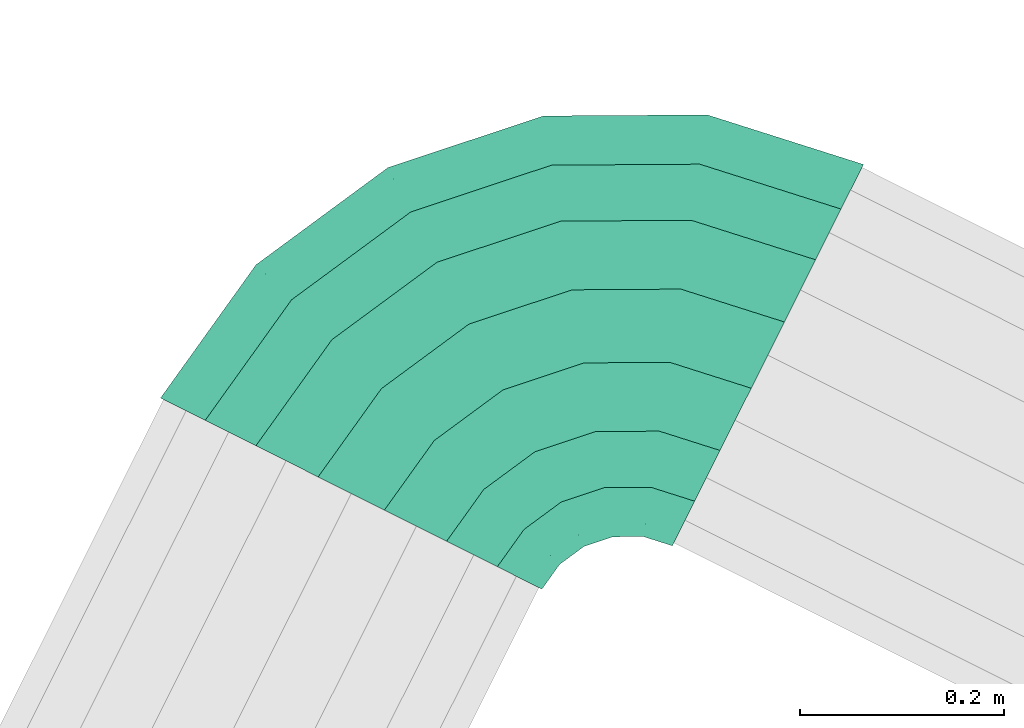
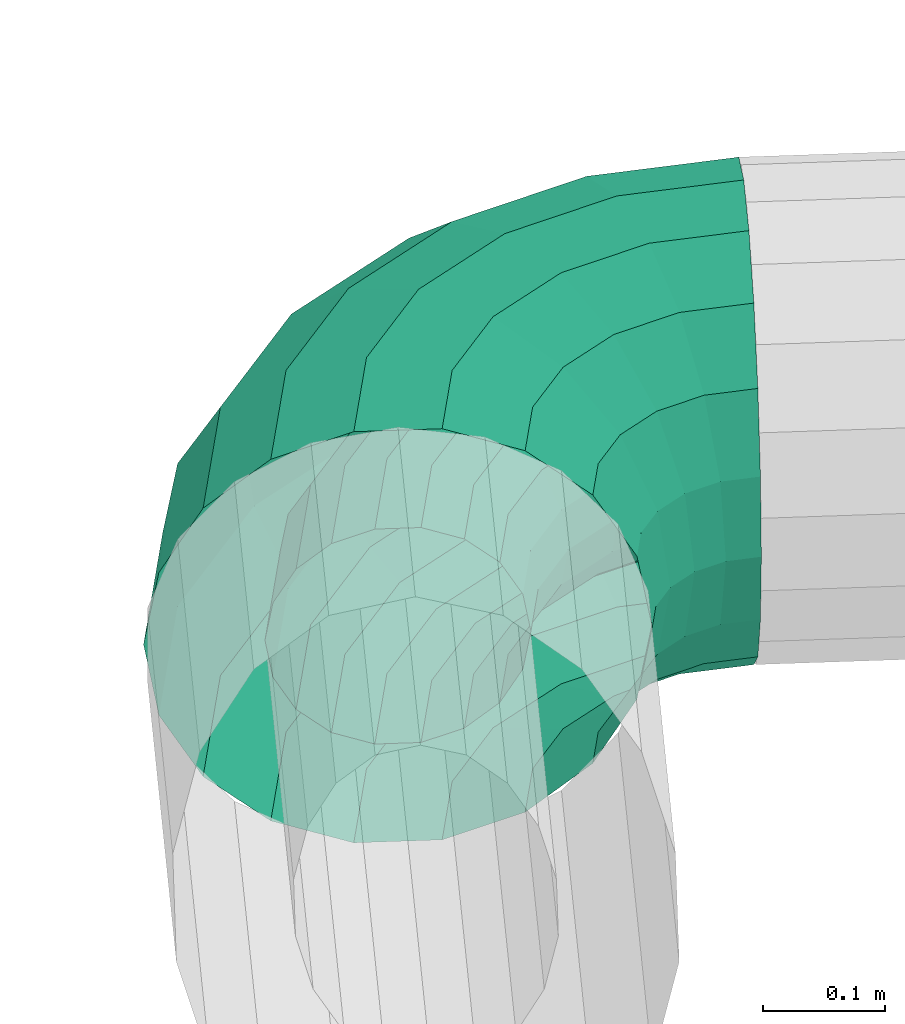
# One storey, part 144 of 152: 1 flow segment.
"""IFC2X3 building model written with IfcOpenShell, lengths in metres."""

from ifc_helpers import new_model, si_unit, derived_unit, direction, frame, origin, place, context, subcontext, project, spatial, face_set, surface_model, source, transform, mapped, material, type_object, type_shapes, element, save


model = new_model("IFC2X3")

# Units and contexts
model_context = context("Model", 3, precision=5.2338327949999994e-05, world=origin(), true_north=direction((0.0, 1.0)))
body_context = subcontext(model_context, "Body", "Model", "MODEL_VIEW")
ifc_project = project(units=[si_unit("LENGTHUNIT", "METRE"), si_unit("AREAUNIT", "SQUARE_METRE"), si_unit("VOLUMEUNIT", "CUBIC_METRE"), si_unit("MASSUNIT", "GRAM", prefix="KILO"), si_unit("PLANEANGLEUNIT", "RADIAN"), derived_unit("THERMALTRANSMITTANCEUNIT", [(si_unit("MASSUNIT", "GRAM", prefix="KILO"), 1), (si_unit("THERMODYNAMICTEMPERATUREUNIT", "KELVIN"), -1), (si_unit("TIMEUNIT", "SECOND"), -3)])], contexts=[model_context])

# Site, building, storey
site_placement = place(None, frame((0.0, 0.0, 0.0), z_axis=(0.0, 0.0, 1.0), x_axis=(0.8939966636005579, -0.4480736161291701, 0.0)))
site = spatial("IfcSite", under=ifc_project, at=site_placement, Name="Default", CompositionType="ELEMENT")
building_placement = place(site_placement, origin())
building = spatial("IfcBuilding", under=site, at=building_placement, CompositionType="ELEMENT")
storey_placement = place(building_placement, frame((0.0, 0.0, 2.7499999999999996)))
storey = spatial("IfcBuildingStorey", under=building, at=storey_placement, Name="1. Obergeschoss", CompositionType="ELEMENT", Elevation=2.7499999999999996)

# Flow segment
ifc_material = material(Name="IfcSurfaceStyle #1741")
distribution_element_type = type_object("IfcDistributionElementType", Name="Rohrbogen 227237:Rohrbogen 227237", material=ifc_material)
shared_shape = source(origin(), body_context, "Body", "SurfaceModel", [
    surface_model("IfcFaceBasedSurfaceModel", [(15.948174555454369, 11.545036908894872, 5.635640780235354), (15.954781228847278, 11.545036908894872, 5.673109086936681), (15.97474739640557, 11.671098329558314, 5.673109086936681), (15.968464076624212, 11.673139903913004, 5.635640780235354), (16.032691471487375, 11.78481998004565, 5.67310908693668), (16.027346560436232, 11.788703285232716, 5.635640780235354), (16.122941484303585, 11.875069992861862, 5.673109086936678), (16.119058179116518, 11.880414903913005, 5.6356407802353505), (16.236663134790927, 11.93301406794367, 5.673109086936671), (16.234621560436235, 11.939297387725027, 5.635640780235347), (16.36272455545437, 11.952980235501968, 5.673109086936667), (16.36272455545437, 11.959586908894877, 5.63564078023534), (15.973804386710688, 11.545036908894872, 5.706058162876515), (15.992839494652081, 11.665219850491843, 5.7060581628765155), (16.04808152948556, 11.773638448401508, 5.706058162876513), (16.134123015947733, 11.859679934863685, 5.70605816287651), (16.2425416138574, 11.914921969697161, 5.7060581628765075), (16.36272455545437, 11.933957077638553, 5.7060581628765), (16.002949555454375, 11.545036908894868, 5.730513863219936), (16.020558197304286, 11.656213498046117, 5.730513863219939), (16.07166046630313, 11.756507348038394, 5.730513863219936), (16.15125411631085, 11.836100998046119, 5.730513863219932), (16.251547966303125, 11.887203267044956, 5.73051386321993), (16.362724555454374, 11.90481190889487, 5.730513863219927), (16.03870139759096, 11.545036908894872, 5.743526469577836), (16.05456021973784, 11.645165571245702, 5.743526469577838), (16.100584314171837, 11.73549294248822, 5.743526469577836), (16.172268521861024, 11.807177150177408, 5.743526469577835), (16.26259589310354, 11.853201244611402, 5.74352646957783), (16.36272455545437, 11.869060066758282, 5.743526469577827), (16.076747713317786, 11.545036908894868, 5.743526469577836), (16.090744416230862, 11.633408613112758, 5.743526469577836), (16.131364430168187, 11.713129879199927, 5.743526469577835), (16.19463158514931, 11.77639703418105, 5.743526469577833), (16.274352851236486, 11.817017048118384, 5.743526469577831), (16.362724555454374, 11.831013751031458, 5.7435264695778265), (16.112499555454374, 11.545036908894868, 5.730513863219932), (16.124746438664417, 11.622360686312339, 5.730513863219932), (16.160288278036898, 11.692115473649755, 5.730513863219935), (16.215645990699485, 11.747473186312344, 5.730513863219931), (16.2854007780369, 11.783015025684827, 5.7305138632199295), (16.362724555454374, 11.795261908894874, 5.730513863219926), (16.14164472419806, 11.545036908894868, 5.7060581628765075), (16.15246514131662, 11.613354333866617, 5.706058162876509), (16.183867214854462, 11.674984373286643, 5.70605816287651), (16.2327770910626, 11.723894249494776, 5.706058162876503), (16.29440713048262, 11.755296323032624, 5.706058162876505), (16.362724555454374, 11.766116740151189, 5.7060581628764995), (16.160667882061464, 11.545036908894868, 5.673109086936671), (16.170557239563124, 11.607475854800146, 5.673109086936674), (16.19925727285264, 11.663802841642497, 5.673109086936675), (16.243958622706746, 11.708504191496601, 5.673109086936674), (16.300285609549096, 11.737204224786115, 5.673109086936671), (16.362724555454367, 11.747093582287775, 5.673109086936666), (16.16727455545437, 11.545036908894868, 5.635640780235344), (16.17684055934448, 11.605434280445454, 5.635640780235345), (16.204602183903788, 11.659919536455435, 5.635640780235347), (16.247841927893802, 11.703159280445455, 5.635640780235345), (16.302327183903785, 11.730920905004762, 5.635640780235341), (16.36272455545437, 11.740486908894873, 5.635640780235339), (16.160667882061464, 11.545036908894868, 5.598172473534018), (16.170557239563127, 11.607475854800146, 5.598172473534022), (16.199257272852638, 11.663802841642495, 5.598172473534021), (16.243958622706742, 11.708504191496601, 5.598172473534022), (16.300285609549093, 11.737204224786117, 5.598172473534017), (16.362724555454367, 11.747093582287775, 5.598172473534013), (16.141644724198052, 11.545036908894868, 5.5652233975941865), (16.152465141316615, 11.613354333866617, 5.565223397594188), (16.183867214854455, 11.674984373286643, 5.565223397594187), (16.232777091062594, 11.72389424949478, 5.565223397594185), (16.294407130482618, 11.755296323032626, 5.565223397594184), (16.362724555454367, 11.766116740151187, 5.565223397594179), (16.11249955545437, 11.545036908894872, 5.540767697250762), (16.12474643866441, 11.62236068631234, 5.540767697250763), (16.16028827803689, 11.692115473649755, 5.540767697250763), (16.21564599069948, 11.747473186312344, 5.540767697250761), (16.285400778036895, 11.78301502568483, 5.540767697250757), (16.362724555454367, 11.795261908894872, 5.540767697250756), (16.07674771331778, 11.545036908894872, 5.52775509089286), (16.090744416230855, 11.633408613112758, 5.527755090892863), (16.13136443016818, 11.71312987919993, 5.527755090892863), (16.194631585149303, 11.776397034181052, 5.527755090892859), (16.27435285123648, 11.817017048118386, 5.527755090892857), (16.362724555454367, 11.83101375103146, 5.527755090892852), (16.038701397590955, 11.545036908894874, 5.527755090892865), (16.054560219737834, 11.645165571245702, 5.527755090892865), (16.100584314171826, 11.73549294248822, 5.527755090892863), (16.172268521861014, 11.80717715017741, 5.52775509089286), (16.262595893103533, 11.853201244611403, 5.527755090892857), (16.36272455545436, 11.869060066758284, 5.527755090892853), (16.002949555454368, 11.545036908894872, 5.540767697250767), (16.02055819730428, 11.65621349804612, 5.540767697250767), (16.071660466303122, 11.756507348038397, 5.540767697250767), (16.151254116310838, 11.836100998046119, 5.540767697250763), (16.25154796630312, 11.88720326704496, 5.540767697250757), (16.36272455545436, 11.90481190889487, 5.540767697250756), (15.973804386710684, 11.545036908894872, 5.565223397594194), (15.992839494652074, 11.665219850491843, 5.565223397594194), (16.048081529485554, 11.77363844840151, 5.565223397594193), (16.134123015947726, 11.859679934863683, 5.565223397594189), (16.242541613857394, 11.914921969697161, 5.5652233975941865), (16.36272455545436, 11.933957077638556, 5.56522339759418), (15.95478122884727, 11.545036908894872, 5.598172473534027), (15.974747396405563, 11.671098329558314, 5.59817247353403), (16.03269147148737, 11.784819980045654, 5.598172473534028), (16.12294148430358, 11.875069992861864, 5.598172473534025), (16.236663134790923, 11.93301406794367, 5.598172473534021), (16.362724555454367, 11.952980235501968, 5.5981724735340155), (15.84817455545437, 11.545036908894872, 5.635640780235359), (15.860811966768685, 11.545036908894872, 5.7073111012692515), (15.885377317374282, 11.70013642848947, 5.7073111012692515), (15.8733584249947, 11.7040416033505, 5.635640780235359), (15.956668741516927, 11.840053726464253, 5.70731110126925), (15.946444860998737, 11.84748181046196, 5.635640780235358), (16.067707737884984, 11.951092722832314, 5.707311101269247), (16.060279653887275, 11.961316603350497, 5.635640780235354), (16.20762503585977, 12.022384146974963, 5.707311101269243), (16.20371986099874, 12.034403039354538, 5.635640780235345), (16.36272455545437, 12.046949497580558, 5.7073111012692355), (16.362724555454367, 12.059586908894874, 5.635640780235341), (15.897199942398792, 11.545036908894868, 5.770336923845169), (15.919984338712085, 11.688891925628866, 5.770336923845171), (15.986107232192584, 11.818665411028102, 5.770336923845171), (16.089096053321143, 11.92165423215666, 5.770336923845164), (16.218869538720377, 11.98777712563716, 5.770336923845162), (16.362724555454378, 12.010561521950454, 5.7703369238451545), (15.952949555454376, 11.545036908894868, 5.817116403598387), (15.97300537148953, 11.671664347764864, 5.817116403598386), (16.031209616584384, 11.785896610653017, 5.817116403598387), (16.12186485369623, 11.876551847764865, 5.81711640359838), (16.23609711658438, 11.934756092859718, 5.817116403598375), (16.362724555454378, 11.954811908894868, 5.817116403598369), (16.021336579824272, 11.545036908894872, 5.842007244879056), (16.038045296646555, 11.650531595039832, 5.842007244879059), (16.086535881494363, 11.745699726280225, 5.842007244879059), (16.162061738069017, 11.821225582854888, 5.842007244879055), (16.257229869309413, 11.869716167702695, 5.842007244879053), (16.362724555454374, 11.886424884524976, 5.842007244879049), (16.09411253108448, 11.545036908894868, 5.842007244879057), (16.10725933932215, 11.628042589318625, 5.842007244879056), (16.14541286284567, 11.70292309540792, 5.842007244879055), (16.204838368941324, 11.762348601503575, 5.8420072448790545), (16.27971887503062, 11.800502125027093, 5.842007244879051), (16.362724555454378, 11.813648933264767, 5.842007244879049), (16.162499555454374, 11.545036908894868, 5.817116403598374), (16.17229926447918, 11.606909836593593, 5.8171164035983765), (16.20073912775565, 11.66272621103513, 5.8171164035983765), (16.245035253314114, 11.707022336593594, 5.817116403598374), (16.30085162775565, 11.735462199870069, 5.817116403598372), (16.362724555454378, 11.745261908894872, 5.817116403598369), (16.218249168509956, 11.545036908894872, 5.770336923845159), (16.225320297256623, 11.589682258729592, 5.770336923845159), (16.245841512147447, 11.629957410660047, 5.770336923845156), (16.2778040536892, 11.661919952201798, 5.770336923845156), (16.318079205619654, 11.682441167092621, 5.770336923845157), (16.362724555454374, 11.689512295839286, 5.7703369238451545), (16.25463714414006, 11.545036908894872, 5.7073111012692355), (16.25992731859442, 11.578437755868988, 5.707311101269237), (16.2752800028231, 11.608569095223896, 5.707311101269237), (16.299192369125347, 11.632481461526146, 5.7073111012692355), (16.32932370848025, 11.647834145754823, 5.707311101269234), (16.36272455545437, 11.653124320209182, 5.707311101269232), (16.26727455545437, 11.545036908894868, 5.635640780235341), (16.271946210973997, 11.574532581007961, 5.635640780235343), (16.28550388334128, 11.60114101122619, 5.635640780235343), (16.306620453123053, 11.622257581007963, 5.635640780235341), (16.33322888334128, 11.635815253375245, 5.635640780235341), (16.362724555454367, 11.640486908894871, 5.635640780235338), (16.254637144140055, 11.545036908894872, 5.563970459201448), (16.25992731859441, 11.57843775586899, 5.56397045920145), (16.27528000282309, 11.608569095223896, 5.563970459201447), (16.299192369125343, 11.632481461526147, 5.563970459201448), (16.329323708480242, 11.647834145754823, 5.563970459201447), (16.362724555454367, 11.653124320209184, 5.563970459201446), (16.21824916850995, 11.545036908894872, 5.50094463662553), (16.225320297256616, 11.589682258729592, 5.50094463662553), (16.245841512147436, 11.62995741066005, 5.500944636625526), (16.277804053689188, 11.661919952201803, 5.500944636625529), (16.318079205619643, 11.682441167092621, 5.500944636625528), (16.36272455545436, 11.689512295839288, 5.500944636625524), (16.16249955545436, 11.545036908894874, 5.4541651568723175), (16.17229926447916, 11.606909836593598, 5.4541651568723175), (16.200739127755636, 11.662726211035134, 5.454165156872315), (16.2450352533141, 11.707022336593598, 5.454165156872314), (16.300851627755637, 11.73546219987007, 5.454165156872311), (16.36272455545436, 11.745261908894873, 5.4541651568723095), (16.094112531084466, 11.545036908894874, 5.42927431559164), (16.107259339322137, 11.628042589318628, 5.42927431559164), (16.145412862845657, 11.70292309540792, 5.429274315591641), (16.204838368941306, 11.762348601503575, 5.429274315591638), (16.279718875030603, 11.800502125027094, 5.429274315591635), (16.36272455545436, 11.81364893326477, 5.429274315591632), (16.021336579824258, 11.545036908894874, 5.429274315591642), (16.038045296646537, 11.650531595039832, 5.429274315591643), (16.086535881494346, 11.745699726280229, 5.429274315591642), (16.162061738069, 11.82122558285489, 5.429274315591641), (16.257229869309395, 11.869716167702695, 5.429274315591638), (16.36272455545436, 11.886424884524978, 5.429274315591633), (15.952949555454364, 11.545036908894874, 5.454165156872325), (15.973005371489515, 11.671664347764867, 5.454165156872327), (16.03120961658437, 11.785896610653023, 5.454165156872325), (16.12186485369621, 11.876551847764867, 5.454165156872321), (16.23609711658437, 11.934756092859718, 5.4541651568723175), (16.362724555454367, 11.954811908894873, 5.454165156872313), (15.897199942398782, 11.545036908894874, 5.50094463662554), (15.91998433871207, 11.688891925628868, 5.500944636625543), (15.986107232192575, 11.818665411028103, 5.500944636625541), (16.089096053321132, 11.92165423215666, 5.500944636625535), (16.21886953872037, 11.987777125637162, 5.500944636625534), (16.362724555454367, 12.010561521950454, 5.500944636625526), (15.86081196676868, 11.545036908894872, 5.563970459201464), (15.885377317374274, 11.70013642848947, 5.563970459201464), (15.956668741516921, 11.840053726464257, 5.563970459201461), (16.06770773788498, 11.951092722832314, 5.563970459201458), (16.207625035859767, 12.022384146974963, 5.563970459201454), (16.36272455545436, 12.04694949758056, 5.56397045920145)], [face_set([[[0, 1, 2, 3]], [[3, 2, 4, 5]], [[5, 4, 6, 7]], [[7, 6, 8, 9]], [[9, 8, 10, 11]], [[1, 12, 13, 2]], [[2, 13, 14, 4]], [[4, 14, 15, 6]], [[6, 15, 16, 8]], [[8, 16, 17, 10]], [[12, 18, 19, 13]], [[13, 19, 20, 14]], [[14, 20, 21, 15]], [[15, 21, 22, 16]], [[16, 22, 23, 17]], [[18, 24, 25, 19]], [[19, 25, 26, 20]], [[20, 26, 27, 21]], [[21, 27, 28, 22]], [[22, 28, 29, 23]], [[24, 30, 31, 25]], [[25, 31, 32, 26]], [[26, 32, 33, 27]], [[27, 33, 34, 28]], [[28, 34, 35, 29]], [[30, 36, 37, 31]], [[31, 37, 38, 32]], [[32, 38, 39, 33]], [[33, 39, 40, 34]], [[34, 40, 41, 35]], [[36, 42, 43, 37]], [[37, 43, 44, 38]], [[38, 44, 45, 39]], [[39, 45, 46, 40]], [[40, 46, 47, 41]], [[42, 48, 49, 43]], [[43, 49, 50, 44]], [[44, 50, 51, 45]], [[45, 51, 52, 46]], [[46, 52, 53, 47]], [[48, 54, 55, 49]], [[49, 55, 56, 50]], [[50, 56, 57, 51]], [[51, 57, 58, 52]], [[52, 58, 59, 53]], [[54, 60, 61, 55]], [[55, 61, 62, 56]], [[56, 62, 63, 57]], [[57, 63, 64, 58]], [[58, 64, 65, 59]], [[60, 66, 67, 61]], [[61, 67, 68, 62]], [[62, 68, 69, 63]], [[63, 69, 70, 64]], [[64, 70, 71, 65]], [[66, 72, 73, 67]], [[67, 73, 74, 68]], [[68, 74, 75, 69]], [[69, 75, 76, 70]], [[70, 76, 77, 71]], [[72, 78, 79, 73]], [[73, 79, 80, 74]], [[74, 80, 81, 75]], [[75, 81, 82, 76]], [[76, 82, 83, 77]], [[78, 84, 85, 79]], [[79, 85, 86, 80]], [[80, 86, 87, 81]], [[81, 87, 88, 82]], [[82, 88, 89, 83]], [[84, 90, 91, 85]], [[85, 91, 92, 86]], [[86, 92, 93, 87]], [[87, 93, 94, 88]], [[88, 94, 95, 89]], [[90, 96, 97, 91]], [[91, 97, 98, 92]], [[92, 98, 99, 93]], [[93, 99, 100, 94]], [[94, 100, 101, 95]], [[96, 102, 103, 97]], [[97, 103, 104, 98]], [[98, 104, 105, 99]], [[99, 105, 106, 100]], [[100, 106, 107, 101]], [[102, 0, 3, 103]], [[103, 3, 5, 104]], [[104, 5, 7, 105]], [[105, 7, 9, 106]], [[106, 9, 11, 107]], [[108, 109, 110, 111]], [[111, 110, 112, 113]], [[113, 112, 114, 115]], [[115, 114, 116, 117]], [[117, 116, 118, 119]], [[109, 120, 121, 110]], [[110, 121, 122, 112]], [[112, 122, 123, 114]], [[114, 123, 124, 116]], [[116, 124, 125, 118]], [[120, 126, 127, 121]], [[121, 127, 128, 122]], [[122, 128, 129, 123]], [[123, 129, 130, 124]], [[124, 130, 131, 125]], [[126, 132, 133, 127]], [[127, 133, 134, 128]], [[128, 134, 135, 129]], [[129, 135, 136, 130]], [[130, 136, 137, 131]], [[132, 138, 139, 133]], [[133, 139, 140, 134]], [[134, 140, 141, 135]], [[135, 141, 142, 136]], [[136, 142, 143, 137]], [[138, 144, 145, 139]], [[139, 145, 146, 140]], [[140, 146, 147, 141]], [[141, 147, 148, 142]], [[142, 148, 149, 143]], [[144, 150, 151, 145]], [[145, 151, 152, 146]], [[146, 152, 153, 147]], [[147, 153, 154, 148]], [[148, 154, 155, 149]], [[150, 156, 157, 151]], [[151, 157, 158, 152]], [[152, 158, 159, 153]], [[153, 159, 160, 154]], [[154, 160, 161, 155]], [[156, 162, 163, 157]], [[157, 163, 164, 158]], [[158, 164, 165, 159]], [[159, 165, 166, 160]], [[160, 166, 167, 161]], [[162, 168, 169, 163]], [[163, 169, 170, 164]], [[164, 170, 171, 165]], [[165, 171, 172, 166]], [[166, 172, 173, 167]], [[168, 174, 175, 169]], [[169, 175, 176, 170]], [[170, 176, 177, 171]], [[171, 177, 178, 172]], [[172, 178, 179, 173]], [[174, 180, 181, 175]], [[175, 181, 182, 176]], [[176, 182, 183, 177]], [[177, 183, 184, 178]], [[178, 184, 185, 179]], [[180, 186, 187, 181]], [[181, 187, 188, 182]], [[182, 188, 189, 183]], [[183, 189, 190, 184]], [[184, 190, 191, 185]], [[186, 192, 193, 187]], [[187, 193, 194, 188]], [[188, 194, 195, 189]], [[189, 195, 196, 190]], [[190, 196, 197, 191]], [[192, 198, 199, 193]], [[193, 199, 200, 194]], [[194, 200, 201, 195]], [[195, 201, 202, 196]], [[196, 202, 203, 197]], [[198, 204, 205, 199]], [[199, 205, 206, 200]], [[200, 206, 207, 201]], [[201, 207, 208, 202]], [[202, 208, 209, 203]], [[204, 210, 211, 205]], [[205, 211, 212, 206]], [[206, 212, 213, 207]], [[207, 213, 214, 208]], [[208, 214, 215, 209]], [[210, 108, 111, 211]], [[211, 111, 113, 212]], [[212, 113, 115, 213]], [[213, 115, 117, 214]], [[214, 117, 119, 215]]])]),
])
type_shapes(distribution_element_type, [shared_shape])
flow_segment_placement = place(storey_placement, frame((0.0, 0.0, -2.7499999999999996)))
element("IfcFlowSegment", 1, at=flow_segment_placement, inside=storey, type_object=distribution_element_type, material=ifc_material, Name="Rohrbogen", ObjectType="Rohrbogen", context=body_context, shape_type="MappedRepresentation", body=[
    mapped(shared_shape, transform((0.0, 0.0, 0.0), scale=1.0)),
])

save(model, "model.ifc")
